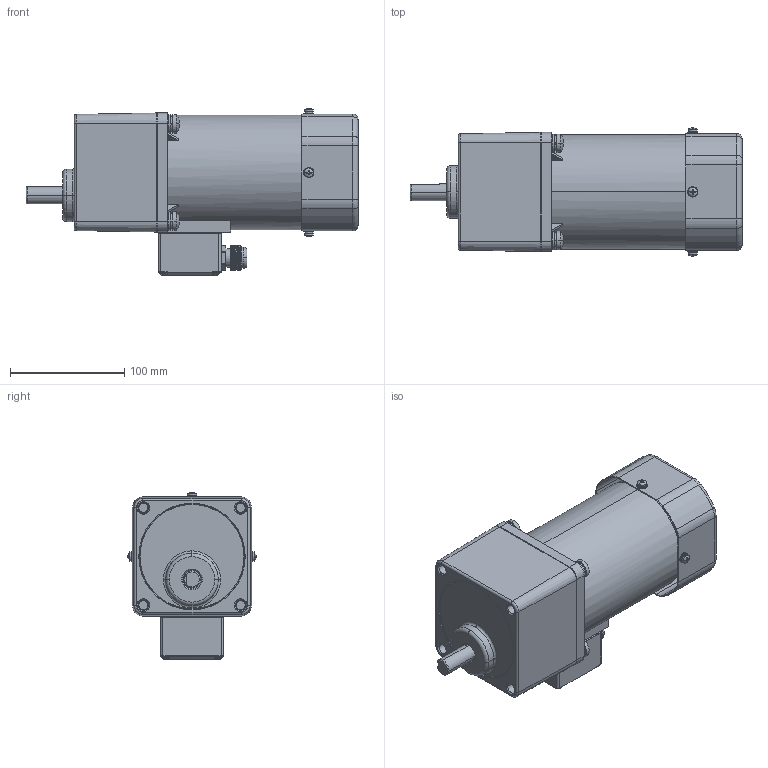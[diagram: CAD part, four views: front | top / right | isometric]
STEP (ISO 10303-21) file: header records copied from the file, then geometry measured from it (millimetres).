
FILE_DESCRIPTION (( 'STEP AP203' ), '1' );
FILE_NAME ('6IK120GU-CFT(6GU3K-200K).STEP', '2020-04-11T00:13:57', ( 'Windows 蚚誧' ), ( '' ), 'SwSTEP 2.0', 'SolidWorks 2019', '' );
FILE_SCHEMA (( 'CONFIG_CONTROL_DESIGN' ));
Length unit declared in the file: millimetre
Products named in the file (12): PRT0002^3IK15GN-CT(3GN3K-200K）(2)_JXH-1; 6IK120GU-CFT(6GU3K-200K); PRT0003^3IK15GN-CT(3GN3K-200K）(2)_JXH-1; PRT0004^3IK15GN-CT(3GN3K-200K）(2)_JXH-1; 100JXHJK; 3IK15GN-CT(3GN3K-200K）(2)^JXH-1; 4IK25GN-CT_8^3IK15GN-CT(3GN3K-200K）(2)_JXH-1; JXH-1; SJQ^3IK15GN-CT(3GN3K-200K）(2)_JXH-1; 6IK120A-CFT; M3^3IK15GN-CT(3GN3K-200K）(2)_JXH-1; 6GU3K-200K
Assembly tree (11 placements, depth 5):
  6IK120GU-CFT(6GU3K-200K)
    6IK120A-CFT
      100JXHJK
      JXH-1
        3IK15GN-CT(3GN3K-200K）(2)^JXH-1
          4IK25GN-CT_8^3IK15GN-CT(3GN3K-200K）(2)_JXH-1
          SJQ^3IK15GN-CT(3GN3K-200K）(2)_JXH-1
          M3^3IK15GN-CT(3GN3K-200K）(2)_JXH-1
          PRT0002^3IK15GN-CT(3GN3K-200K）(2)_JXH-1
          PRT0003^3IK15GN-CT(3GN3K-200K）(2)_JXH-1
          PRT0004^3IK15GN-CT(3GN3K-200K）(2)_JXH-1
    6GU3K-200K
Bounding box: 290 x 111.91 x 145.96 mm (x, y, z)
Volume: 2029758.8 mm3; surface area: 209085.1 mm2
Topology: 33 solids, 33 shells, 1614 faces, 4152 edges, 2628 vertices
Faces by surface type: cylinder 699, plane 454, cone 306, torus 79, bspline 40, sphere 36
Entity records: 55748 total; most frequent: CARTESIAN_POINT 14530, DIRECTION 8919, ORIENTED_EDGE 8256, EDGE_CURVE 4128, AXIS2_PLACEMENT_3D 3631, VERTEX_POINT 2624, CIRCLE 2040, EDGE_LOOP 1726
